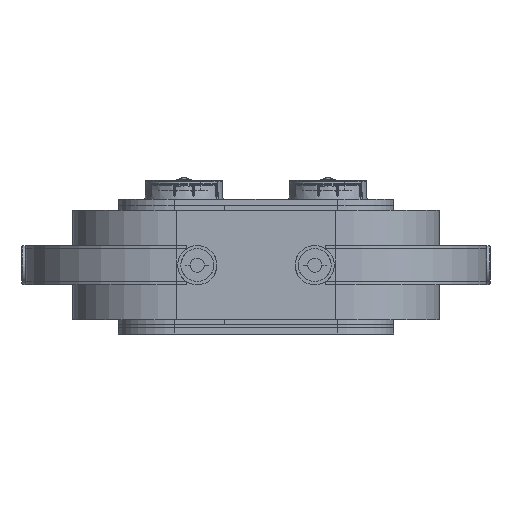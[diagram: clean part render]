
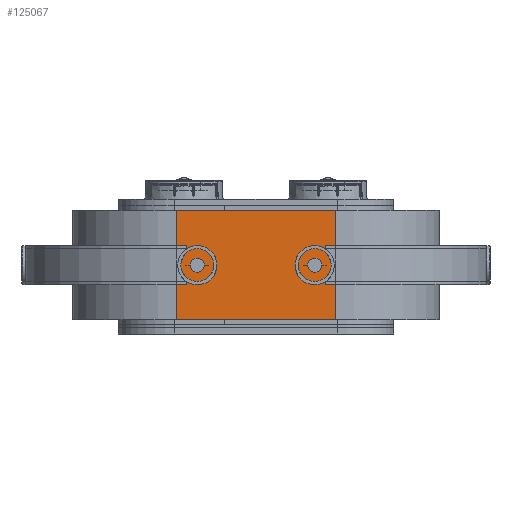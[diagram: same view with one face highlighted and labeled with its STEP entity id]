
A CAD part, front view. The second image highlights one B-rep face of the part: STEP entity #125067.
In plain terms, the highlighted planar face has unit normal (0, -1, 0).
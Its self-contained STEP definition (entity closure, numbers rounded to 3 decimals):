
#2301 = EDGE_LOOP ( 'NONE', ( #44142, #101806, #211140, #75248 ) ) ;
#2600 = AXIS2_PLACEMENT_3D ( 'NONE', #177548, #98848, #60873 ) ;
#13061 = AXIS2_PLACEMENT_3D ( 'NONE', #174672, #74512, #76946 ) ;
#14243 = EDGE_CURVE ( 'NONE', #222319, #38248, #118972, .T. ) ;
#15478 = VERTEX_POINT ( 'NONE', #211445 ) ;
#17578 = ORIENTED_EDGE ( 'NONE', *, *, #95459, .T. ) ;
#17844 = CARTESIAN_POINT ( 'NONE',  ( 51., -6., -35. ) ) ;
#18028 = DIRECTION ( 'NONE',  ( 0., 1., 0. ) ) ;
#18154 = EDGE_CURVE ( 'NONE', #87614, #126220, #94306, .T. ) ;
#18694 = CARTESIAN_POINT ( 'NONE',  ( 37.5, -6., 0. ) ) ;
#20397 = CARTESIAN_POINT ( 'NONE',  ( 37.5, -6., 0. ) ) ;
#26154 = CIRCLE ( 'NONE', #224404, 4.5 ) ;
#27126 = EDGE_CURVE ( 'NONE', #240048, #154051, #219763, .T. ) ;
#36569 = FACE_OUTER_BOUND ( 'NONE', #2301, .T. ) ;
#38248 = VERTEX_POINT ( 'NONE', #187573 ) ;
#41769 = VECTOR ( 'NONE', #186679, 1000. ) ;
#44142 = ORIENTED_EDGE ( 'NONE', *, *, #106744, .F. ) ;
#54570 = DIRECTION ( 'NONE',  ( 0., 1., 0. ) ) ;
#56549 = DIRECTION ( 'NONE',  ( -1., 0., 0. ) ) ;
#58854 = DIRECTION ( 'NONE',  ( -1., 0., 0. ) ) ;
#60873 = DIRECTION ( 'NONE',  ( -1., 0., 0. ) ) ;
#61999 = EDGE_LOOP ( 'NONE', ( #248229, #17578 ) ) ;
#65942 = AXIS2_PLACEMENT_3D ( 'NONE', #83866, #18028, #71129 ) ;
#66206 = EDGE_CURVE ( 'NONE', #154051, #240048, #95273, .T. ) ;
#66424 = CARTESIAN_POINT ( 'NONE',  ( -51., -6., -35. ) ) ;
#71129 = DIRECTION ( 'NONE',  ( -1., 0., 0. ) ) ;
#74402 = CARTESIAN_POINT ( 'NONE',  ( 42., -6., 0. ) ) ;
#74512 = DIRECTION ( 'NONE',  ( 0., 1., 0. ) ) ;
#75248 = ORIENTED_EDGE ( 'NONE', *, *, #18154, .F. ) ;
#76946 = DIRECTION ( 'NONE',  ( -1., 0., 0. ) ) ;
#77011 = AXIS2_PLACEMENT_3D ( 'NONE', #18694, #78023, #56549 ) ;
#78023 = DIRECTION ( 'NONE',  ( 0., 1., 0. ) ) ;
#83209 = CARTESIAN_POINT ( 'NONE',  ( -33., -6., 0. ) ) ;
#83866 = CARTESIAN_POINT ( 'NONE',  ( -37.5, -6., 0. ) ) ;
#84274 = VERTEX_POINT ( 'NONE', #74402 ) ;
#87614 = VERTEX_POINT ( 'NONE', #17844 ) ;
#88403 = CARTESIAN_POINT ( 'NONE',  ( -42., -6., 0. ) ) ;
#94306 = LINE ( 'NONE', #209810, #173018 ) ;
#95273 = CIRCLE ( 'NONE', #2600, 4.5 ) ;
#95459 = EDGE_CURVE ( 'NONE', #84274, #15478, #26154, .T. ) ;
#98848 = DIRECTION ( 'NONE',  ( 0., 1., 0. ) ) ;
#99679 = VECTOR ( 'NONE', #121944, 1000. ) ;
#101806 = ORIENTED_EDGE ( 'NONE', *, *, #14243, .F. ) ;
#104067 = ORIENTED_EDGE ( 'NONE', *, *, #66206, .T. ) ;
#106377 = EDGE_LOOP ( 'NONE', ( #104067, #148537 ) ) ;
#106744 = EDGE_CURVE ( 'NONE', #38248, #87614, #123221, .T. ) ;
#118972 = LINE ( 'NONE', #235491, #139832 ) ;
#121944 = DIRECTION ( 'NONE',  ( 0., 0., -1. ) ) ;
#123221 = LINE ( 'NONE', #198146, #99679 ) ;
#125067 = ADVANCED_FACE ( 'NONE', ( #248134, #212691, #36569 ), #194993, .F. ) ;
#126220 = VERTEX_POINT ( 'NONE', #66424 ) ;
#131957 = DIRECTION ( 'NONE',  ( -1., 0., 0. ) ) ;
#137684 = CIRCLE ( 'NONE', #77011, 4.5 ) ;
#139832 = VECTOR ( 'NONE', #233046, 1000. ) ;
#148537 = ORIENTED_EDGE ( 'NONE', *, *, #27126, .T. ) ;
#154051 = VERTEX_POINT ( 'NONE', #88403 ) ;
#163769 = CARTESIAN_POINT ( 'NONE',  ( -51., -6., -35. ) ) ;
#168929 = EDGE_CURVE ( 'NONE', #15478, #84274, #137684, .T. ) ;
#173018 = VECTOR ( 'NONE', #58854, 1000. ) ;
#174672 = CARTESIAN_POINT ( 'NONE',  ( 0., -6., 0. ) ) ;
#177548 = CARTESIAN_POINT ( 'NONE',  ( -37.5, -6., 0. ) ) ;
#186679 = DIRECTION ( 'NONE',  ( 0., 0., 1. ) ) ;
#187573 = CARTESIAN_POINT ( 'NONE',  ( 51., -6., 35. ) ) ;
#194993 = PLANE ( 'NONE',  #13061 ) ;
#198146 = CARTESIAN_POINT ( 'NONE',  ( 51., -6., -35. ) ) ;
#206838 = LINE ( 'NONE', #163769, #41769 ) ;
#209810 = CARTESIAN_POINT ( 'NONE',  ( -51., -6., -35. ) ) ;
#211140 = ORIENTED_EDGE ( 'NONE', *, *, #240955, .F. ) ;
#211445 = CARTESIAN_POINT ( 'NONE',  ( 33., -6., 0. ) ) ;
#212691 = FACE_BOUND ( 'NONE', #106377, .T. ) ;
#215924 = CARTESIAN_POINT ( 'NONE',  ( -51., -6., 35. ) ) ;
#219763 = CIRCLE ( 'NONE', #65942, 4.5 ) ;
#222319 = VERTEX_POINT ( 'NONE', #215924 ) ;
#224404 = AXIS2_PLACEMENT_3D ( 'NONE', #20397, #54570, #131957 ) ;
#233046 = DIRECTION ( 'NONE',  ( 1., 0., 0. ) ) ;
#235491 = CARTESIAN_POINT ( 'NONE',  ( -51., -6., 35. ) ) ;
#240048 = VERTEX_POINT ( 'NONE', #83209 ) ;
#240955 = EDGE_CURVE ( 'NONE', #126220, #222319, #206838, .T. ) ;
#248134 = FACE_BOUND ( 'NONE', #61999, .T. ) ;
#248229 = ORIENTED_EDGE ( 'NONE', *, *, #168929, .T. ) ;
